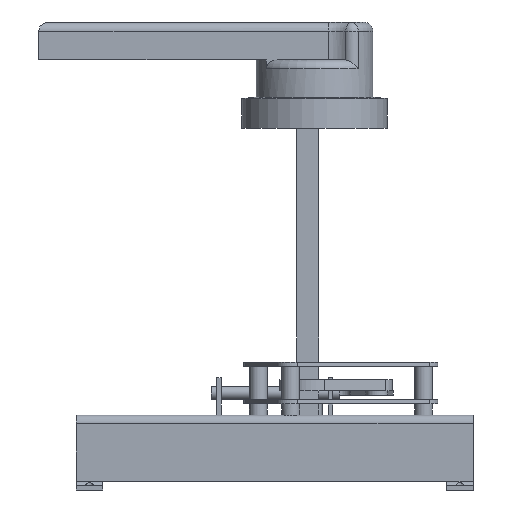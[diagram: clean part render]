
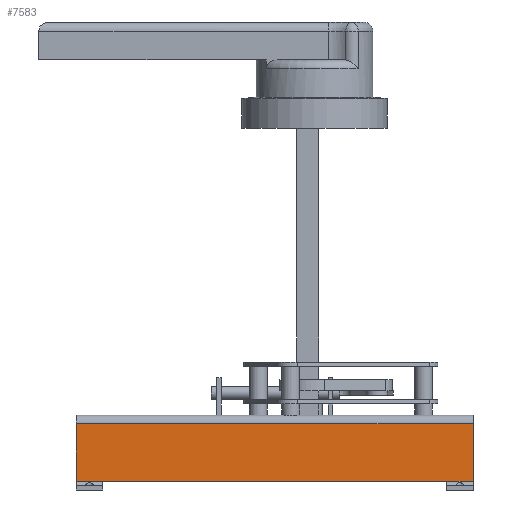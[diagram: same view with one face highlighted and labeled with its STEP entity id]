
A CAD part, front view. The second image highlights one B-rep face of the part: STEP entity #7583.
In plain terms, the highlighted planar face has unit normal (0, -1, 0).
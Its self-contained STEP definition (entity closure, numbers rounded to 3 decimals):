
#41 = CARTESIAN_POINT ( 'NONE',  ( -90., -95., 32. ) ) ;
#150 = ORIENTED_EDGE ( 'NONE', *, *, #6702, .T. ) ;
#194 = DIRECTION ( 'NONE',  ( 0., 0., 1. ) ) ;
#198 = DIRECTION ( 'NONE',  ( 0., 0., -1. ) ) ;
#447 = DIRECTION ( 'NONE',  ( 0., 0., 1. ) ) ;
#514 = LINE ( 'NONE', #3170, #1598 ) ;
#779 = CARTESIAN_POINT ( 'NONE',  ( -90., -95., 36. ) ) ;
#865 = PLANE ( 'NONE',  #2254 ) ;
#894 = DIRECTION ( 'NONE',  ( 1., 0., 0. ) ) ;
#1011 = VERTEX_POINT ( 'NONE', #4789 ) ;
#1125 = EDGE_CURVE ( 'NONE', #7124, #2164, #4003, .T. ) ;
#1156 = LINE ( 'NONE', #7506, #3707 ) ;
#1187 = VECTOR ( 'NONE', #4980, 1000. ) ;
#1201 = DIRECTION ( 'NONE',  ( 0., 0., -1. ) ) ;
#1355 = VERTEX_POINT ( 'NONE', #6580 ) ;
#1445 = CARTESIAN_POINT ( 'NONE',  ( 90., -95., 36. ) ) ;
#1598 = VECTOR ( 'NONE', #198, 1000. ) ;
#1645 = VECTOR ( 'NONE', #5937, 1000. ) ;
#1692 = CARTESIAN_POINT ( 'NONE',  ( 78., -95., 6. ) ) ;
#1993 = CARTESIAN_POINT ( 'NONE',  ( -90., -95., 6. ) ) ;
#2164 = VERTEX_POINT ( 'NONE', #2570 ) ;
#2240 = CARTESIAN_POINT ( 'NONE',  ( -78., -95., 6. ) ) ;
#2254 = AXIS2_PLACEMENT_3D ( 'NONE', #779, #6687, #194 ) ;
#2423 = CARTESIAN_POINT ( 'NONE',  ( -90., -95., 32. ) ) ;
#2570 = CARTESIAN_POINT ( 'NONE',  ( 90., -95., 6. ) ) ;
#2710 = LINE ( 'NONE', #3290, #4821 ) ;
#2876 = EDGE_LOOP ( 'NONE', ( #5943, #150, #6627, #7451, #3944, #3485, #6708, #4699 ) ) ;
#3170 = CARTESIAN_POINT ( 'NONE',  ( -78., -95., 2. ) ) ;
#3226 = EDGE_CURVE ( 'NONE', #3918, #1355, #4161, .T. ) ;
#3290 = CARTESIAN_POINT ( 'NONE',  ( -90., -95., 5.803 ) ) ;
#3409 = VECTOR ( 'NONE', #1201, 1000. ) ;
#3485 = ORIENTED_EDGE ( 'NONE', *, *, #4654, .T. ) ;
#3629 = CARTESIAN_POINT ( 'NONE',  ( -90., -95., 6. ) ) ;
#3707 = VECTOR ( 'NONE', #447, 1000. ) ;
#3753 = VERTEX_POINT ( 'NONE', #2240 ) ;
#3918 = VERTEX_POINT ( 'NONE', #2423 ) ;
#3944 = ORIENTED_EDGE ( 'NONE', *, *, #1125, .F. ) ;
#4003 = LINE ( 'NONE', #1445, #4630 ) ;
#4161 = LINE ( 'NONE', #4711, #3409 ) ;
#4359 = FACE_OUTER_BOUND ( 'NONE', #2876, .T. ) ;
#4408 = EDGE_CURVE ( 'NONE', #7339, #2164, #4770, .T. ) ;
#4496 = LINE ( 'NONE', #41, #6429 ) ;
#4587 = EDGE_CURVE ( 'NONE', #1355, #3753, #5718, .T. ) ;
#4630 = VECTOR ( 'NONE', #7300, 1000. ) ;
#4654 = EDGE_CURVE ( 'NONE', #7124, #3918, #4496, .T. ) ;
#4699 = ORIENTED_EDGE ( 'NONE', *, *, #4587, .T. ) ;
#4711 = CARTESIAN_POINT ( 'NONE',  ( -90., -95., 36. ) ) ;
#4722 = CARTESIAN_POINT ( 'NONE',  ( -78., -95., 5.803 ) ) ;
#4770 = LINE ( 'NONE', #3629, #1645 ) ;
#4789 = CARTESIAN_POINT ( 'NONE',  ( 78., -95., 5.803 ) ) ;
#4798 = VERTEX_POINT ( 'NONE', #4722 ) ;
#4810 = DIRECTION ( 'NONE',  ( -1., 0., 0. ) ) ;
#4821 = VECTOR ( 'NONE', #894, 1000. ) ;
#4980 = DIRECTION ( 'NONE',  ( 1., 0., 0. ) ) ;
#5718 = LINE ( 'NONE', #1993, #1187 ) ;
#5937 = DIRECTION ( 'NONE',  ( 1., 0., 0. ) ) ;
#5943 = ORIENTED_EDGE ( 'NONE', *, *, #7507, .T. ) ;
#6429 = VECTOR ( 'NONE', #4810, 1000. ) ;
#6580 = CARTESIAN_POINT ( 'NONE',  ( -90., -95., 6. ) ) ;
#6627 = ORIENTED_EDGE ( 'NONE', *, *, #7304, .T. ) ;
#6687 = DIRECTION ( 'NONE',  ( 0., 1., 0. ) ) ;
#6702 = EDGE_CURVE ( 'NONE', #4798, #1011, #2710, .T. ) ;
#6708 = ORIENTED_EDGE ( 'NONE', *, *, #3226, .T. ) ;
#7124 = VERTEX_POINT ( 'NONE', #7245 ) ;
#7245 = CARTESIAN_POINT ( 'NONE',  ( 90., -95., 32. ) ) ;
#7300 = DIRECTION ( 'NONE',  ( 0., 0., -1. ) ) ;
#7304 = EDGE_CURVE ( 'NONE', #1011, #7339, #1156, .T. ) ;
#7339 = VERTEX_POINT ( 'NONE', #1692 ) ;
#7451 = ORIENTED_EDGE ( 'NONE', *, *, #4408, .T. ) ;
#7506 = CARTESIAN_POINT ( 'NONE',  ( 78., -95., 2. ) ) ;
#7507 = EDGE_CURVE ( 'NONE', #3753, #4798, #514, .T. ) ;
#7583 = ADVANCED_FACE ( 'NONE', ( #4359 ), #865, .F. ) ;
